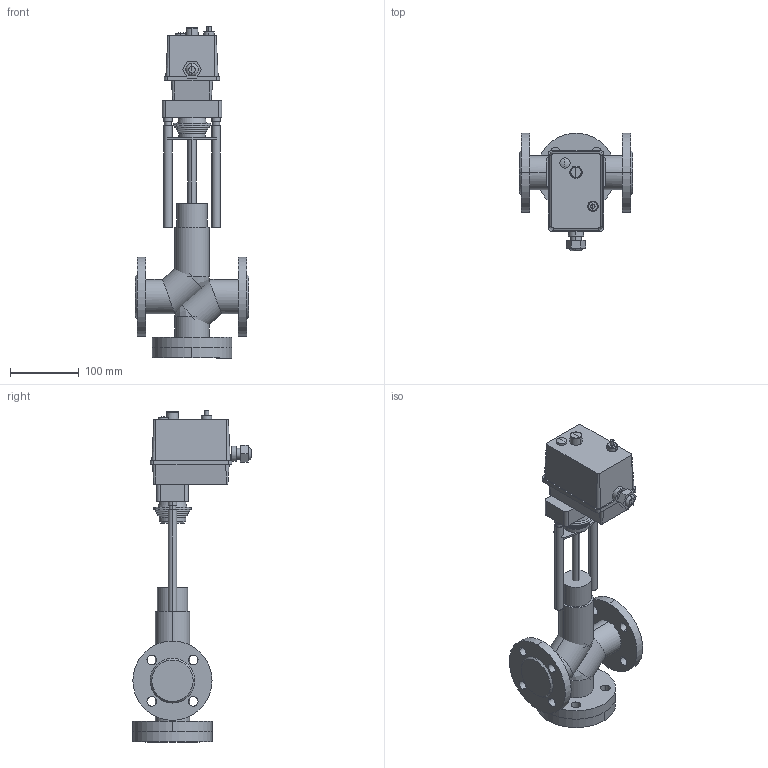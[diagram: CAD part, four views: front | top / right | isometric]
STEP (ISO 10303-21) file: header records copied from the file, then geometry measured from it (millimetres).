
FILE_DESCRIPTION(/* description */ (''),/* implementation_level */ '2;1');
FILE_NAME(/* name */ 'ТРК DN25 PN 2.5 МПа Regada ST MINI',/* time_stamp */ '2026-07-14T23:15:17+03:00',/* author */ (''),/* organization */ (''),/* preprocessor_version */ 'ST-DEVELOPER v20',/* originating_system */ '',/* authorisation */ '');
FILE_SCHEMA (('AP242_MANAGED_MODEL_BASED_3D_ENGINEERING_MIM_LF { 1 0 10303 442 1 1 4 }'));
Length unit declared in the file: millimetre
Products named in the file (14): TopLevelAssembly; Выдавливание; Модификатор; Модификатор_1; Выдавливание_
1; Выдавливание_
2; Вращение; Выдавливание_
3; Выдавливание_
4; Привод_Regada ST Mini; Переход; Объемная геометрия 
присоединена; Полый Выдавливание; Объемная геометрия 
присоединена_1
Assembly tree (13 placements, depth 2):
  TopLevelAssembly
    Выдавливание
    Модификатор
    Модификатор_1
    Выдавливание_
1
    Выдавливание_
2
    Вращение
    Выдавливание_
3
    Выдавливание_
4
    Привод_Regada ST Mini
    Переход
    Объемная геометрия 
присоединена
    Полый Выдавливание
    Объемная геометрия 
присоединена_1
Bounding box: 165 x 171.67 x 482 mm (x, y, z)
Volume: 2165417.6 mm3; surface area: 332192.4 mm2
Topology: 28 solids, 28 shells, 248 faces, 503 edges, 302 vertices
Faces by surface type: plane 122, cylinder 88, bspline 30, cone 8
Entity records: 7444 total; most frequent: CARTESIAN_POINT 1636, DIRECTION 1239, ORIENTED_EDGE 986, AXIS2_PLACEMENT_3D 501, EDGE_CURVE 493, VERTEX_POINT 302, EDGE_LOOP 278, FACE_OUTER_BOUND 248
